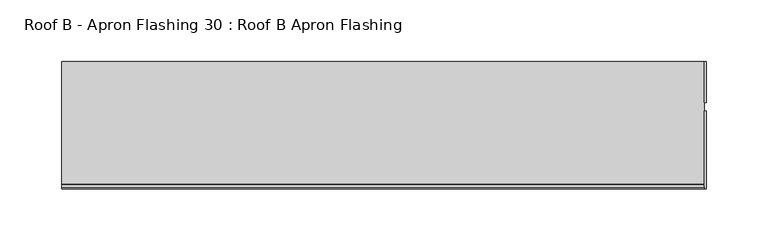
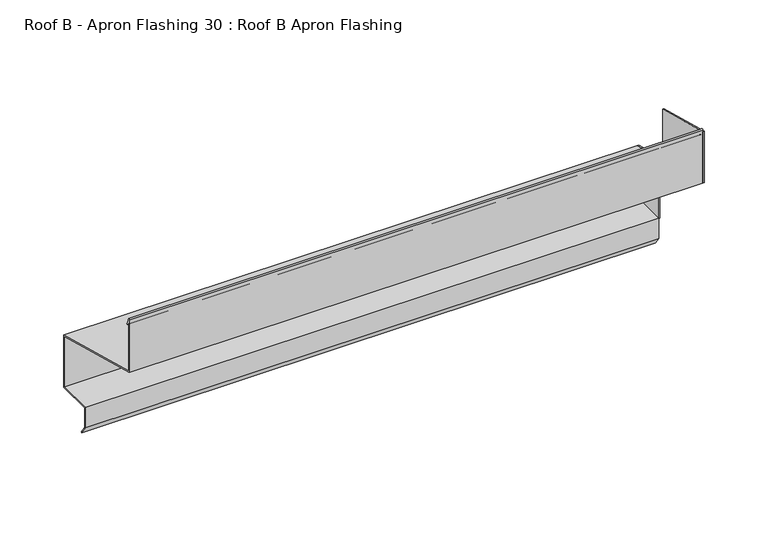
"""IFC4 building model written with IfcOpenShell, lengths in millimetres: proxy geometry, Roof B - Apron Flashing 30 : Roof B Apron Flashing."""

from ifc_helpers import new_model, si_unit, point, frame, frame_2d, origin, place, context, project, spatial, polyline, circle_curve, trimmed, segment, composite_curve, outline, extrude, source, transform, mapped, element, save


def roof_b_apron_flashing_30_roof_b_apron_flashing_073e667e(model_context):
    return source(origin(), model_context, "Body", "SweptSolid", [
        extrude(outline(polyline([(-20608.0708536, -392.0096237), (-20640.9457855, -392.0096237), (-20640.9457855, -333.2008122), (-20608.0708536, -342.0096237), (-20608.0708536, -392.0096237)])), frame((13198.0650451, 0.0, 0.0), z_axis=(1.0, 0.0, 0.0), x_axis=(0.0, 1.0, 0.0)), (0.0, 0.0, 1.0), 1.3240587),
        extrude(outline(polyline([(-20647.8598724, -283.1155152), (-20647.8598724, -332.3834644), (-20710.9438355, -315.4801674), (-20710.9438355, -266.2122183), (-20647.8598724, -283.1155152)])), frame((13198.0650451, 0.0, 0.0), z_axis=(1.0, 0.0, 0.0), x_axis=(0.0, 1.0, 0.0)), (0.0, 0.0, 1.0), 1.3240587),
        extrude(outline(composite_curve([segment(polyline([(-20608.0708536, -342.0096237), (-20608.0708536, -392.0096237), (-20640.6742184, -392.0096237), (-20640.6742184, -410.3959053), (-20635.4633187, -417.8378413), (-20636.2824708, -418.4114178), (-20641.6742184, -410.7112041), (-20641.6742184, -391.0096237), (-20609.0708536, -391.0096237), (-20609.0708536, -342.7769507), (-20710.9438355, -315.4801674), (-20710.9438355, -264.8977528)]), True, "CONTINUOUS"), segment(trimmed(circle_curve(frame_2d((-20710.2647913, -264.8977528)), 0.6790442), [point((-20710.9438355, -264.8977528))], [point((-20709.6351925, -264.6433784))], False, "CARTESIAN"), True, "CONTINUOUS"), segment(polyline([(-20709.6351925, -264.6433784), (-20707.2207377, -270.6193639)]), True, "CONTINUOUS"), segment(trimmed(circle_curve(frame_2d((-20707.6843296, -270.8066672)), 0.5), [point((-20707.2207377, -270.6193639))], [point((-20708.1479215, -270.9939705))], False, "CARTESIAN"), True, "CONTINUOUS"), segment(polyline([(-20708.1479215, -270.9939705), (-20709.9438355, -266.5489273), (-20709.9438355, -314.7128405), (-20608.0708536, -342.0096237)]), True, "CONTINUOUS")], self_intersect=False)), frame((12679.0344597, 0.0, 0.0), z_axis=(1.0, 0.0, 0.0), x_axis=(0.0, 1.0, 0.0)), (0.0, 0.0, 1.0), 519.0305854),
    ])


if __name__ == "__main__":
    model = new_model("IFC4")
    model_context = context("Model", 3, world=origin())
    ifc_project = project(units=[si_unit("LENGTHUNIT", "METRE", prefix="MILLI")], contexts=[model_context])
    site = spatial("IfcSite", under=ifc_project)
    building = spatial("IfcBuilding", under=site)
    placement = place(None, origin())
    roof_b_apron_flashing_30_roof_b_apron_flashing_shape = roof_b_apron_flashing_30_roof_b_apron_flashing_073e667e(model_context)
    element("IfcBuildingElementProxy", 1, Name="Roof B - Apron Flashing 30 : Roof B Apron Flashing", ObjectType="Roof B - Apron Flashing 30 : Roof B Apron Flashing", at=placement, inside=building, context=model_context, shape_type="MappedRepresentation", body=[
        mapped(roof_b_apron_flashing_30_roof_b_apron_flashing_shape, transform((0.0, 0.0, 0.0), x_axis=(1.0, 0.0, 0.0), y_axis=(0.0, 1.0, 0.0), z_axis=(0.0, 0.0, 1.0))),
    ])
    save(model, "model.ifc")
